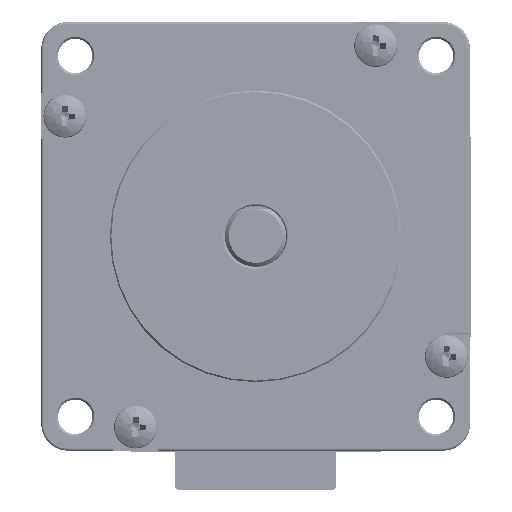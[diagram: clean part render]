
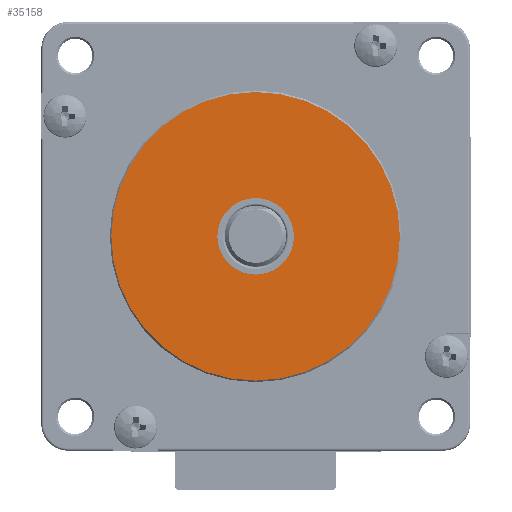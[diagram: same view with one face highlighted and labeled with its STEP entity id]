
A CAD part, top view. The second image highlights one B-rep face of the part: STEP entity #35158.
In plain terms, the highlighted planar face has unit normal (0, 0, 1).
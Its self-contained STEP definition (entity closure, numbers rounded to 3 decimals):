
#2450 = EDGE_LOOP ( 'NONE', ( #2692, #79368 ) ) ;
#2479 = DIRECTION ( 'NONE',  ( 1., 0., 0. ) ) ;
#2692 = ORIENTED_EDGE ( 'NONE', *, *, #132392, .T. ) ;
#11912 = CARTESIAN_POINT ( 'NONE',  ( 0., 0., 80.5 ) ) ;
#14400 = DIRECTION ( 'NONE',  ( 0., 0., 1. ) ) ;
#19409 = CARTESIAN_POINT ( 'NONE',  ( 0., 0., 80.5 ) ) ;
#33726 = AXIS2_PLACEMENT_3D ( 'NONE', #87820, #201794, #104186 ) ;
#35158 = ADVANCED_FACE ( 'NONE', ( #189693, #184544 ), #61167, .T. ) ;
#35810 = DIRECTION ( 'NONE',  ( 1., 0., 0. ) ) ;
#46559 = AXIS2_PLACEMENT_3D ( 'NONE', #19409, #133570, #35810 ) ;
#50063 = VERTEX_POINT ( 'NONE', #133761 ) ;
#57391 = AXIS2_PLACEMENT_3D ( 'NONE', #112101, #14400, #128513 ) ;
#61167 = PLANE ( 'NONE',  #107186 ) ;
#73785 = CIRCLE ( 'NONE', #57391, 18.85 ) ;
#74729 = CIRCLE ( 'NONE', #33726, 18.85 ) ;
#77504 = DIRECTION ( 'NONE',  ( 1., 0., 0. ) ) ;
#79368 = ORIENTED_EDGE ( 'NONE', *, *, #118960, .T. ) ;
#85155 = CIRCLE ( 'NONE', #46559, 5. ) ;
#87820 = CARTESIAN_POINT ( 'NONE',  ( 0., 0., 80.5 ) ) ;
#88956 = EDGE_LOOP ( 'NONE', ( #111620, #90915 ) ) ;
#90915 = ORIENTED_EDGE ( 'NONE', *, *, #113952, .F. ) ;
#100252 = DIRECTION ( 'NONE',  ( 0., 0., 1. ) ) ;
#100382 = VERTEX_POINT ( 'NONE', #155245 ) ;
#104186 = DIRECTION ( 'NONE',  ( 1., 0., 0. ) ) ;
#107186 = AXIS2_PLACEMENT_3D ( 'NONE', #11912, #175137, #77504 ) ;
#111620 = ORIENTED_EDGE ( 'NONE', *, *, #116810, .F. ) ;
#112101 = CARTESIAN_POINT ( 'NONE',  ( 0., 0., 80.5 ) ) ;
#113952 = EDGE_CURVE ( 'NONE', #147554, #164145, #85155, .T. ) ;
#116810 = EDGE_CURVE ( 'NONE', #164145, #147554, #129383, .T. ) ;
#118960 = EDGE_CURVE ( 'NONE', #100382, #50063, #74729, .T. ) ;
#128513 = DIRECTION ( 'NONE',  ( 1., 0., 0. ) ) ;
#129383 = CIRCLE ( 'NONE', #179550, 5. ) ;
#132392 = EDGE_CURVE ( 'NONE', #50063, #100382, #73785, .T. ) ;
#133570 = DIRECTION ( 'NONE',  ( 0., 0., 1. ) ) ;
#133761 = CARTESIAN_POINT ( 'NONE',  ( -18.85, 0., 80.5 ) ) ;
#147554 = VERTEX_POINT ( 'NONE', #170308 ) ;
#155245 = CARTESIAN_POINT ( 'NONE',  ( 18.85, 0., 80.5 ) ) ;
#164145 = VERTEX_POINT ( 'NONE', #208399 ) ;
#170308 = CARTESIAN_POINT ( 'NONE',  ( 5., 0., 80.5 ) ) ;
#175137 = DIRECTION ( 'NONE',  ( 0., 0., 1. ) ) ;
#179550 = AXIS2_PLACEMENT_3D ( 'NONE', #197787, #100252, #2479 ) ;
#184544 = FACE_BOUND ( 'NONE', #88956, .T. ) ;
#189693 = FACE_OUTER_BOUND ( 'NONE', #2450, .T. ) ;
#197787 = CARTESIAN_POINT ( 'NONE',  ( 0., 0., 80.5 ) ) ;
#201794 = DIRECTION ( 'NONE',  ( 0., 0., 1. ) ) ;
#208399 = CARTESIAN_POINT ( 'NONE',  ( -5., 0., 80.5 ) ) ;
